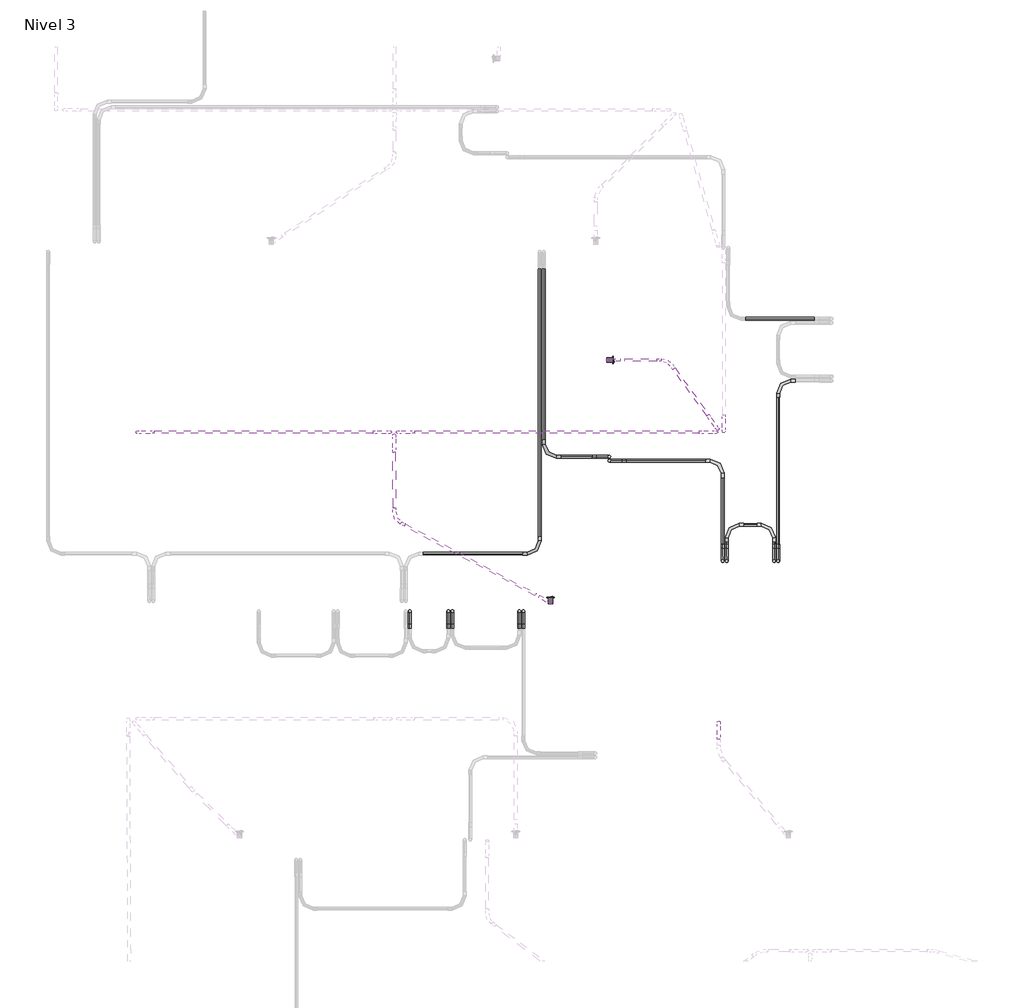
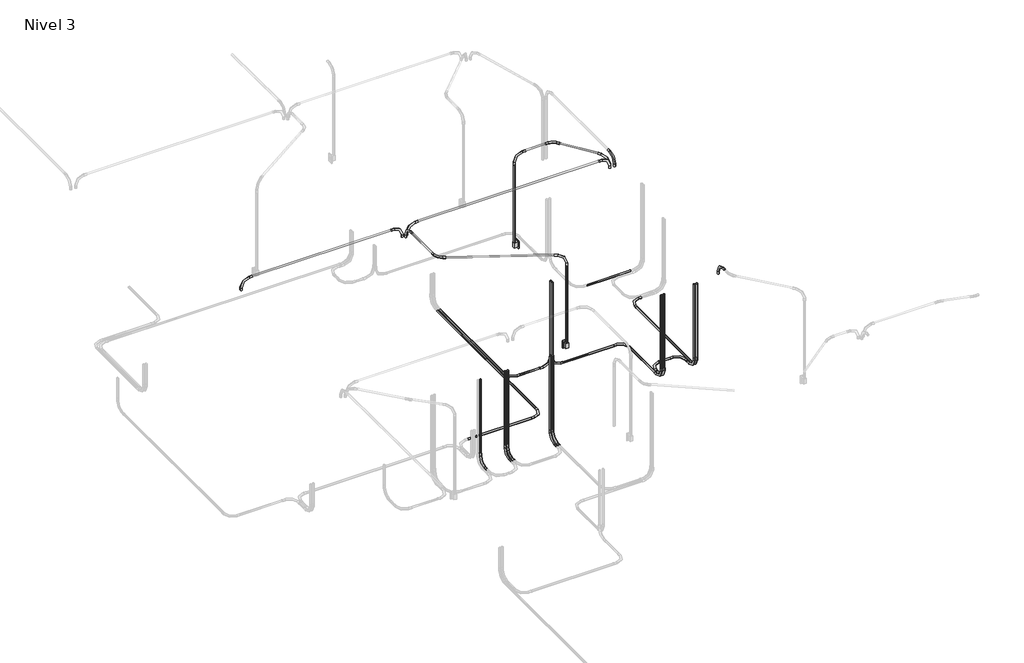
# One storey, part 6 of 9: 30 cable carrier segments, 29 cable carrier fittings, 2 switching devices.
"""IFC4 building model written with IfcOpenShell, lengths in millimetres."""

from ifc_helpers import new_model, si_unit, point, frame, frame_2d, origin, place, context, project, spatial, circle_curve, trimmed, segment, composite_curve, outline, extrude, transform, mapped, element, save
from components import m_codo_de_tubo_extremo_liso_pvc_9da73e12, m_codo_de_tubo_extremo_liso_pvc_102f0f41, m_codo_de_tubo_extremo_liso_pvc_7e29693c, m_codo_de_tubo_extremo_liso_pvc_4da0fa4a, switching_device_22fed34b

model = new_model("IFC4")

# Units and contexts
model_context = context("Model", 3, world=origin())
ifc_project = project(units=[si_unit("LENGTHUNIT", "METRE", prefix="MILLI")], contexts=[model_context])

# Site, building, storey
site = spatial("IfcSite", under=ifc_project)
building = spatial("IfcBuilding", under=site)
storey = spatial("IfcBuildingStorey", under=building, Name="Nivel 3", Elevation=5450.0)

# Cable carrier fittings
placement = place(None, origin())
m_codo_de_tubo_extremo_liso_pvc_shape = m_codo_de_tubo_extremo_liso_pvc_9da73e12(model_context)
element("IfcCableCarrierFitting", 1, ObjectType="M_Codo de tubo - Extremo liso - PVC : CODO POTENCIA", at=placement, inside=storey, context=model_context, shape_type="MappedRepresentation", body=[
    mapped(m_codo_de_tubo_extremo_liso_pvc_shape, transform((5861.9683714, 11082.7648472, 5380.0), x_axis=(-1.0, 0.0, 0.0), y_axis=(0.0, -1.0, 0.0), z_axis=(0.0, 0.0, 1.0))),
])
element("IfcCableCarrierFitting", 2, ObjectType="M_Codo de tubo - Extremo liso - PVC : CODO POTENCIA", at=placement, inside=storey, context=model_context, shape_type="MappedRepresentation", body=[
    mapped(m_codo_de_tubo_extremo_liso_pvc_shape, transform((5861.9683714, 9455.3628882, 5380.0), x_axis=(0.0, 0.0, -1.0), y_axis=(0.0, 1.0, 0.0), z_axis=(1.0, 0.0, 0.0))),
])
element("IfcCableCarrierFitting", 3, ObjectType="M_Codo de tubo - Extremo liso - PVC : CODO POTENCIA", at=placement, inside=storey, context=model_context, shape_type="MappedRepresentation", body=[
    mapped(m_codo_de_tubo_extremo_liso_pvc_shape, transform((5825.9047317, 9455.3628882, 5380.0), x_axis=(0.0, 0.0, -1.0), y_axis=(0.0, 1.0, 0.0), z_axis=(1.0, 0.0, 0.0))),
])
element("IfcCableCarrierFitting", 4, ObjectType="M_Codo de tubo - Extremo liso - PVC : CODO POTENCIA", at=placement, inside=storey, context=model_context, shape_type="MappedRepresentation", body=[
    mapped(m_codo_de_tubo_extremo_liso_pvc_shape, transform((5398.6351606, 9455.3628882, 5380.0), x_axis=(0.0, 0.0, -1.0), y_axis=(0.0, 1.0, 0.0), z_axis=(1.0, 0.0, 0.0))),
])
element("IfcCableCarrierFitting", 5, ObjectType="M_Codo de tubo - Extremo liso - PVC : CODO POTENCIA", at=placement, inside=storey, context=model_context, shape_type="MappedRepresentation", body=[
    mapped(m_codo_de_tubo_extremo_liso_pvc_shape, transform((4340.363469, 10360.1309198, 5380.0), x_axis=(0.0, 0.0, -1.0), y_axis=(1.0, 0.0, 0.0), z_axis=(0.0, -1.0, 0.0))),
])
element("IfcCableCarrierFitting", 6, ObjectType="M_Codo de tubo - Extremo liso - PVC : CODO POTENCIA", at=placement, inside=storey, context=model_context, shape_type="MappedRepresentation", body=[
    mapped(m_codo_de_tubo_extremo_liso_pvc_shape, transform((5825.9047317, 9781.7743992, 5380.0), x_axis=(0.0, 1.0, 0.0), y_axis=(-1.0, 0.0, 0.0), z_axis=(0.0, 0.0, 1.0))),
])
element("IfcCableCarrierFitting", 7, ObjectType="M_Codo de tubo - Extremo liso - PVC : CODO POTENCIA", at=placement, inside=storey, context=model_context, shape_type="MappedRepresentation", body=[
    mapped(m_codo_de_tubo_extremo_liso_pvc_shape, transform((5398.6351606, 9781.7743992, 5380.0), x_axis=(-1.0, 0.0, 0.0), y_axis=(0.0, -1.0, 0.0), z_axis=(0.0, 0.0, 1.0))),
])
element("IfcCableCarrierFitting", 8, ObjectType="M_Codo de tubo - Extremo liso - PVC : CODO POTENCIA", at=placement, inside=storey, context=model_context, shape_type="MappedRepresentation", body=[
    mapped(m_codo_de_tubo_extremo_liso_pvc_shape, transform((5362.571521, 10360.1309198, 5380.0), x_axis=(0.0, 1.0, 0.0), y_axis=(-1.0, 0.0, 0.0), z_axis=(0.0, 0.0, 1.0))),
])
element("IfcCableCarrierFitting", 9, ObjectType="M_Codo de tubo - Extremo liso - PVC : CODO POTENCIA", at=placement, inside=storey, context=model_context, shape_type="MappedRepresentation", body=[
    mapped(m_codo_de_tubo_extremo_liso_pvc_shape, transform((5362.571521, 9455.3628882, 5380.0), x_axis=(0.0, 0.0, -1.0), y_axis=(0.0, 1.0, 0.0), z_axis=(1.0, 0.0, 0.0))),
])
element("IfcCableCarrierFitting", 10, ObjectType="M_Codo de tubo - Extremo liso - PVC : CODO POTENCIA", at=placement, inside=storey, context=model_context, shape_type="MappedRepresentation", body=[
    mapped(m_codo_de_tubo_extremo_liso_pvc_shape, transform((3750.0633148, 10396.1945594, 5380.0), x_axis=(0.0, -1.0, 0.0), y_axis=(1.0, 0.0, 0.0), z_axis=(0.0, 0.0, 1.0))),
])
element("IfcCableCarrierFitting", 11, ObjectType="M_Codo de tubo - Extremo liso - PVC : CODO POTENCIA", at=placement, inside=storey, context=model_context, shape_type="MappedRepresentation", body=[
    mapped(m_codo_de_tubo_extremo_liso_pvc_shape, transform((4340.363469, 10396.1945594, 5380.0), x_axis=(0.0, 0.0, -1.0), y_axis=(-1.0, 0.0, 0.0), z_axis=(0.0, 1.0, 0.0))),
])
element("IfcCableCarrierFitting", 12, ObjectType="M_Codo de tubo - Extremo liso - PVC : CODO POTENCIA", at=placement, inside=storey, context=model_context, shape_type="MappedRepresentation", body=[
    mapped(m_codo_de_tubo_extremo_liso_pvc_shape, transform((3713.9996751, 9523.463856, 5380.0), x_axis=(1.0, 0.0, 0.0), y_axis=(0.0, 1.0, 0.0), z_axis=(0.0, 0.0, 1.0))),
])
element("IfcCableCarrierFitting", 13, ObjectType="M_Codo de tubo - Extremo liso - PVC : CODO POTENCIA", at=placement, inside=storey, context=model_context, shape_type="MappedRepresentation", body=[
    mapped(m_codo_de_tubo_extremo_liso_pvc_shape, transform((2543.7285061, 9004.6371118, 5380.0), x_axis=(0.0, 0.0, -1.0), y_axis=(0.0, -1.0, 0.0), z_axis=(-1.0, 0.0, 0.0))),
])
element("IfcCableCarrierFitting", 14, ObjectType="M_Codo de tubo - Extremo liso - PVC : CODO POTENCIA", at=placement, inside=storey, context=model_context, shape_type="MappedRepresentation", body=[
    mapped(m_codo_de_tubo_extremo_liso_pvc_shape, transform((2890.8449158, 9004.6371118, 5380.0), x_axis=(0.0, 0.0, -1.0), y_axis=(0.0, -1.0, 0.0), z_axis=(-1.0, 0.0, 0.0))),
])
element("IfcCableCarrierFitting", 15, ObjectType="M_Codo de tubo - Extremo liso - PVC : CODO POTENCIA", at=placement, inside=storey, context=model_context, shape_type="MappedRepresentation", body=[
    mapped(m_codo_de_tubo_extremo_liso_pvc_shape, transform((2926.9085554, 9004.6371118, 5380.0), x_axis=(0.0, 0.0, -1.0), y_axis=(0.0, -1.0, 0.0), z_axis=(-1.0, 0.0, 0.0))),
])
element("IfcCableCarrierFitting", 16, ObjectType="M_Codo de tubo - Extremo liso - PVC : CODO POTENCIA", at=placement, inside=storey, context=model_context, shape_type="MappedRepresentation", body=[
    mapped(m_codo_de_tubo_extremo_liso_pvc_shape, transform((3566.4756648, 9004.6371118, 5380.0), x_axis=(0.0, 0.0, -1.0), y_axis=(0.0, -1.0, 0.0), z_axis=(-1.0, 0.0, 0.0))),
])
element("IfcCableCarrierFitting", 17, ObjectType="M_Codo de tubo - Extremo liso - PVC : CODO POTENCIA", at=placement, inside=storey, context=model_context, shape_type="MappedRepresentation", body=[
    mapped(m_codo_de_tubo_extremo_liso_pvc_shape, transform((3530.4120251, 9004.6371118, 5380.0), x_axis=(0.0, 0.0, -1.0), y_axis=(0.0, -1.0, 0.0), z_axis=(-1.0, 0.0, 0.0))),
])
element("IfcCableCarrierFitting", 18, ObjectType="M_Codo de tubo - Extremo liso - PVC : CODO ILUMINACION", at=placement, inside=storey, context=model_context, shape_type="MappedRepresentation", body=[
    mapped(m_codo_de_tubo_extremo_liso_pvc_shape, transform((2433.5664838, 10618.2110616, 8000.0), x_axis=(-1.0, 0.0, 0.0), y_axis=(0.0, 0.0, -1.0), z_axis=(0.0, -1.0, 0.0))),
])
element("IfcCableCarrierFitting", 19, ObjectType="M_Codo de tubo - Extremo liso - PVC : CODO ILUMINACION", at=placement, inside=storey, context=model_context, shape_type="MappedRepresentation", body=[
    mapped(m_codo_de_tubo_extremo_liso_pvc_shape, transform((88.3958853, 10618.2110616, 8000.0), x_axis=(-1.0, 0.0, 0.0), y_axis=(0.0, 0.0, -1.0), z_axis=(0.0, -1.0, 0.0))),
])
element("IfcCableCarrierFitting", 20, ObjectType="M_Codo de tubo - Extremo liso - PVC : CODO ILUMINACION", at=placement, inside=storey, context=model_context, shape_type="MappedRepresentation", body=[
    mapped(m_codo_de_tubo_extremo_liso_pvc_shape, transform((5372.6243482, 10623.5653349, 8000.0), x_axis=(0.0, -1.0, 0.0), y_axis=(0.0, 0.0, -1.0), z_axis=(1.0, 0.0, 0.0))),
])
element("IfcCableCarrierFitting", 21, ObjectType="M_Codo de tubo - Extremo liso - PVC : CODO ILUMINACION", at=placement, inside=storey, context=model_context, shape_type="MappedRepresentation", body=[
    mapped(m_codo_de_tubo_extremo_liso_pvc_shape, transform((4326.8617051, 11267.6086695, 8000.0), x_axis=(0.0, 0.0, 1.0), y_axis=(1.0, 0.0, 0.0), z_axis=(0.0, 1.0, 0.0))),
])
element("IfcCableCarrierFitting", 22, ObjectType="M_Codo de tubo - Extremo liso - PVC : CODO ILUMINACION", at=placement, inside=storey, context=model_context, shape_type="MappedRepresentation", body=[
    mapped(m_codo_de_tubo_extremo_liso_pvc_shape, transform((2401.0317774, 10589.9698383, 8000.0), x_axis=(-0.003640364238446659, 0.9999933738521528, 0.0), y_axis=(0.0, 0.0, -1.0), z_axis=(-0.9999933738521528, -0.003640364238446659, 0.0))),
])
element("IfcCableCarrierFitting", 23, ObjectType="M_Codo de tubo - Extremo liso - PVC : CODO ILUMINACION", at=placement, inside=storey, context=model_context, shape_type="MappedRepresentation", body=[
    mapped(m_codo_de_tubo_extremo_liso_pvc_shape, transform((3809.679356, 9081.8611243, 8000.0), x_axis=(0.0, 0.0, 1.0), y_axis=(-0.882947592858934, 0.46947156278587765, 0.0), z_axis=(-0.46947156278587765, -0.882947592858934, 0.0))),
])
element("IfcCableCarrierFitting", 24, ObjectType="M_Codo de tubo - Extremo liso - PVC : CODO ILUMINACION", at=placement, inside=storey, context=model_context, shape_type="MappedRepresentation", body=[
    mapped(m_codo_de_tubo_extremo_liso_pvc_shape, transform((5326.8335186, 8002.6414157, 8000.0), x_axis=(0.0, 1.0, 0.0), y_axis=(0.0, 0.0, -1.0), z_axis=(-1.0, 0.0, 0.0))),
])
m_codo_de_tubo_extremo_liso_pvc_2_shape = m_codo_de_tubo_extremo_liso_pvc_102f0f41(model_context)
element("IfcCableCarrierFitting", 25, ObjectType="M_Codo de tubo - Extremo liso - PVC : CODO ILUMINACION", at=placement, inside=storey, context=model_context, shape_type="MappedRepresentation", body=[
    mapped(m_codo_de_tubo_extremo_liso_pvc_2_shape, transform((5305.5362229, 10618.2110616, 8000.0), x_axis=(1.0, 0.0, 0.0), y_axis=(0.0, 0.0, 1.0), z_axis=(0.0, -1.0, 0.0))),
])
element("IfcCableCarrierFitting", 26, ObjectType="M_Codo de tubo - Extremo liso - PVC : CODO ILUMINACION", at=placement, inside=storey, context=model_context, shape_type="MappedRepresentation", body=[
    mapped(m_codo_de_tubo_extremo_liso_pvc_2_shape, transform((2365.5362229, 10618.2110616, 8000.0), x_axis=(1.0, 0.0, 0.0), y_axis=(0.0, 0.0, 1.0), z_axis=(0.0, -1.0, 0.0))),
])
element("IfcCableCarrierFitting", 27, ObjectType="M_Codo de tubo - Extremo liso - PVC : CODO ILUMINACION", at=placement, inside=storey, context=model_context, shape_type="MappedRepresentation", body=[
    mapped(m_codo_de_tubo_extremo_liso_pvc_2_shape, transform((5317.7730141, 10646.6392543, 8000.0), x_axis=(0.587785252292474, -0.8090169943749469, 0.0), y_axis=(0.0, 0.0, 1.0000000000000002), z_axis=(-0.8090169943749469, -0.587785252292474, 0.0))),
])
m_codo_de_tubo_extremo_liso_pvc_3_shape = m_codo_de_tubo_extremo_liso_pvc_7e29693c(model_context)
element("IfcCableCarrierFitting", 28, ObjectType="M_Codo de tubo - Extremo liso - PVC : CODO ILUMINACION", at=placement, inside=storey, context=model_context, shape_type="MappedRepresentation", body=[
    mapped(m_codo_de_tubo_extremo_liso_pvc_3_shape, transform((4866.6123254, 11267.6086695, 8000.0), x_axis=(-0.5877852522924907, 0.8090169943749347, 0.0), y_axis=(-0.8090169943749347, -0.5877852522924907, 0.0), z_axis=(0.0, 0.0, 1.0))),
])
m_codo_de_tubo_extremo_liso_pvc_4_shape = m_codo_de_tubo_extremo_liso_pvc_4da0fa4a(model_context)
element("IfcCableCarrierFitting", 29, ObjectType="M_Codo de tubo - Extremo liso - PVC : CODO ILUMINACION", at=placement, inside=storey, context=model_context, shape_type="MappedRepresentation", body=[
    mapped(m_codo_de_tubo_extremo_liso_pvc_4_shape, transform((2403.8006194, 9829.3801084, 8000.0), x_axis=(0.0036403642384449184, -0.9999933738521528, 0.0), y_axis=(0.9999933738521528, 0.0036403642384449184, 0.0), z_axis=(0.0, 0.0, 1.0))),
])

# Cable carrier segments
element("IfcCableCarrierSegment", 30, ObjectType="PVC-SEL, POTENCIA", at=placement, inside=storey, context=model_context, shape_type="SweptSolid", body=[
    extrude(outline(composite_curve([segment(trimmed(circle_curve(frame_2d((11639.3432469, 5380.0)), 11.71), [point((11651.0532469, 5380.0))], [point((11639.3432469, 5368.29))], False, "CARTESIAN"), True, "CONTINUOUS"), segment(trimmed(circle_curve(frame_2d((11639.3432469, 5380.0)), 11.71), [point((11639.3432469, 5368.29))], [point((11627.6332469, 5380.0))], False, "CARTESIAN"), True, "CONTINUOUS"), segment(trimmed(circle_curve(frame_2d((11639.3432469, 5380.0)), 11.71), [point((11627.6332469, 5380.0))], [point((11639.3432469, 5391.71))], False, "CARTESIAN"), True, "CONTINUOUS"), segment(trimmed(circle_curve(frame_2d((11639.3432469, 5380.0)), 11.71), [point((11639.3432469, 5391.71))], [point((11651.0532469, 5380.0))], False, "CARTESIAN"), True, "CONTINUOUS")], self_intersect=False)), frame((5563.847338, 0.0, 0.0), z_axis=(1.0, 0.0, 0.0), x_axis=(0.0, 1.0, 0.0)), (0.0, 0.0, 1.0), 628.3897738),
])
element("IfcCableCarrierSegment", 31, ObjectType="PVC-SEL, POTENCIA", at=placement, inside=storey, context=model_context, shape_type="SweptSolid", body=[
    extrude(outline(composite_curve([segment(trimmed(circle_curve(frame_2d((5380.0, 5861.9683714)), 11.71), [point((5380.0, 5850.2583714))], [point((5368.29, 5861.9683714))], False, "CARTESIAN"), True, "CONTINUOUS"), segment(trimmed(circle_curve(frame_2d((5380.0, 5861.9683714)), 11.71), [point((5368.29, 5861.9683714))], [point((5380.0, 5873.6783714))], False, "CARTESIAN"), True, "CONTINUOUS"), segment(trimmed(circle_curve(frame_2d((5380.0, 5861.9683714)), 11.71), [point((5380.0, 5873.6783714))], [point((5391.71, 5861.9683714))], False, "CARTESIAN"), True, "CONTINUOUS"), segment(trimmed(circle_curve(frame_2d((5380.0, 5861.9683714)), 11.71), [point((5391.71, 5861.9683714))], [point((5380.0, 5850.2583714))], False, "CARTESIAN"), True, "CONTINUOUS")], self_intersect=False)), frame((0.0, 9607.7628882, 0.0), z_axis=(0.0, 1.0, 0.0), x_axis=(0.0, 0.0, 1.0)), (0.0, 0.0, 1.0), 1322.6019589),
])
element("IfcCableCarrierSegment", 32, ObjectType="PVC-SEL, POTENCIA", at=placement, inside=storey, context=model_context, shape_type="SweptSolid", body=[
    extrude(outline(composite_curve([segment(trimmed(circle_curve(frame_2d((5861.9683714, 9455.3628882)), 11.71), [point((5873.6783714, 9455.3628882))], [point((5861.9683714, 9443.6528882))], False, "CARTESIAN"), True, "CONTINUOUS"), segment(trimmed(circle_curve(frame_2d((5861.9683714, 9455.3628882)), 11.71), [point((5861.9683714, 9443.6528882))], [point((5850.2583714, 9455.3628882))], False, "CARTESIAN"), True, "CONTINUOUS"), segment(trimmed(circle_curve(frame_2d((5861.9683714, 9455.3628882)), 11.71), [point((5850.2583714, 9455.3628882))], [point((5861.9683714, 9467.0728882))], False, "CARTESIAN"), True, "CONTINUOUS"), segment(trimmed(circle_curve(frame_2d((5861.9683714, 9455.3628882)), 11.71), [point((5861.9683714, 9467.0728882))], [point((5873.6783714, 9455.3628882))], False, "CARTESIAN"), True, "CONTINUOUS")], self_intersect=False)), frame((0.0, 0.0, 5532.4), z_axis=(0.0, 0.0, 1.0), x_axis=(1.0, 0.0, 0.0)), (0.0, 0.0, 1.0), 1097.3020537),
])
element("IfcCableCarrierSegment", 33, ObjectType="PVC-SEL, POTENCIA", at=placement, inside=storey, context=model_context, shape_type="SweptSolid", body=[
    extrude(outline(composite_curve([segment(trimmed(circle_curve(frame_2d((5380.0, 5825.9047317)), 11.71), [point((5380.0, 5837.6147317))], [point((5391.71, 5825.9047317))], False, "CARTESIAN"), True, "CONTINUOUS"), segment(trimmed(circle_curve(frame_2d((5380.0, 5825.9047317)), 11.71), [point((5391.71, 5825.9047317))], [point((5380.0, 5814.1947317))], False, "CARTESIAN"), True, "CONTINUOUS"), segment(trimmed(circle_curve(frame_2d((5380.0, 5825.9047317)), 11.71), [point((5380.0, 5814.1947317))], [point((5368.29, 5825.9047317))], False, "CARTESIAN"), True, "CONTINUOUS"), segment(trimmed(circle_curve(frame_2d((5380.0, 5825.9047317)), 11.71), [point((5368.29, 5825.9047317))], [point((5380.0, 5837.6147317))], False, "CARTESIAN"), True, "CONTINUOUS")], self_intersect=False)), frame((0.0, 9607.7628882, 0.0), z_axis=(0.0, 1.0, 0.0), x_axis=(0.0, 0.0, 1.0)), (0.0, 0.0, 1.0), 21.611511),
])
element("IfcCableCarrierSegment", 34, ObjectType="PVC-SEL, POTENCIA", at=placement, inside=storey, context=model_context, shape_type="SweptSolid", body=[
    extrude(outline(composite_curve([segment(trimmed(circle_curve(frame_2d((5825.9047317, 9455.3628882)), 11.71), [point((5837.6147317, 9455.3628882))], [point((5825.9047317, 9443.6528882))], False, "CARTESIAN"), True, "CONTINUOUS"), segment(trimmed(circle_curve(frame_2d((5825.9047317, 9455.3628882)), 11.71), [point((5825.9047317, 9443.6528882))], [point((5814.1947317, 9455.3628882))], False, "CARTESIAN"), True, "CONTINUOUS"), segment(trimmed(circle_curve(frame_2d((5825.9047317, 9455.3628882)), 11.71), [point((5814.1947317, 9455.3628882))], [point((5825.9047317, 9467.0728882))], False, "CARTESIAN"), True, "CONTINUOUS"), segment(trimmed(circle_curve(frame_2d((5825.9047317, 9455.3628882)), 11.71), [point((5825.9047317, 9467.0728882))], [point((5837.6147317, 9455.3628882))], False, "CARTESIAN"), True, "CONTINUOUS")], self_intersect=False)), frame((0.0, 0.0, 5532.4), z_axis=(0.0, 0.0, 1.0), x_axis=(1.0, 0.0, 0.0)), (0.0, 0.0, 1.0), 1097.3020537),
])
element("IfcCableCarrierSegment", 35, ObjectType="PVC-SEL, POTENCIA", at=placement, inside=storey, context=model_context, shape_type="SweptSolid", body=[
    extrude(outline(composite_curve([segment(trimmed(circle_curve(frame_2d((5380.0, 5398.6351606)), 11.71), [point((5380.0, 5410.3451606))], [point((5391.71, 5398.6351606))], False, "CARTESIAN"), True, "CONTINUOUS"), segment(trimmed(circle_curve(frame_2d((5380.0, 5398.6351606)), 11.71), [point((5391.71, 5398.6351606))], [point((5380.0, 5386.9251606))], False, "CARTESIAN"), True, "CONTINUOUS"), segment(trimmed(circle_curve(frame_2d((5380.0, 5398.6351606)), 11.71), [point((5380.0, 5386.9251606))], [point((5368.29, 5398.6351606))], False, "CARTESIAN"), True, "CONTINUOUS"), segment(trimmed(circle_curve(frame_2d((5380.0, 5398.6351606)), 11.71), [point((5368.29, 5398.6351606))], [point((5380.0, 5410.3451606))], False, "CARTESIAN"), True, "CONTINUOUS")], self_intersect=False)), frame((0.0, 9607.7628882, 0.0), z_axis=(0.0, 1.0, 0.0), x_axis=(0.0, 0.0, 1.0)), (0.0, 0.0, 1.0), 21.611511),
])
element("IfcCableCarrierSegment", 36, ObjectType="PVC-SEL, POTENCIA", at=placement, inside=storey, context=model_context, shape_type="SweptSolid", body=[
    extrude(outline(composite_curve([segment(trimmed(circle_curve(frame_2d((5398.6351606, 9455.3628882)), 11.71), [point((5410.3451606, 9455.3628882))], [point((5398.6351606, 9443.6528882))], False, "CARTESIAN"), True, "CONTINUOUS"), segment(trimmed(circle_curve(frame_2d((5398.6351606, 9455.3628882)), 11.71), [point((5398.6351606, 9443.6528882))], [point((5386.9251606, 9455.3628882))], False, "CARTESIAN"), True, "CONTINUOUS"), segment(trimmed(circle_curve(frame_2d((5398.6351606, 9455.3628882)), 11.71), [point((5386.9251606, 9455.3628882))], [point((5398.6351606, 9467.0728882))], False, "CARTESIAN"), True, "CONTINUOUS"), segment(trimmed(circle_curve(frame_2d((5398.6351606, 9455.3628882)), 11.71), [point((5398.6351606, 9467.0728882))], [point((5410.3451606, 9455.3628882))], False, "CARTESIAN"), True, "CONTINUOUS")], self_intersect=False)), frame((0.0, 0.0, 5532.4), z_axis=(0.0, 0.0, 1.0), x_axis=(1.0, 0.0, 0.0)), (0.0, 0.0, 1.0), 1097.3020537),
])
element("IfcCableCarrierSegment", 37, ObjectType="PVC-SEL, POTENCIA", at=placement, inside=storey, context=model_context, shape_type="SweptSolid", body=[
    extrude(outline(composite_curve([segment(trimmed(circle_curve(frame_2d((5380.0, 5362.571521)), 11.71), [point((5380.0, 5350.861521))], [point((5368.29, 5362.571521))], False, "CARTESIAN"), True, "CONTINUOUS"), segment(trimmed(circle_curve(frame_2d((5380.0, 5362.571521)), 11.71), [point((5368.29, 5362.571521))], [point((5380.0, 5374.281521))], False, "CARTESIAN"), True, "CONTINUOUS"), segment(trimmed(circle_curve(frame_2d((5380.0, 5362.571521)), 11.71), [point((5380.0, 5374.281521))], [point((5391.71, 5362.571521))], False, "CARTESIAN"), True, "CONTINUOUS"), segment(trimmed(circle_curve(frame_2d((5380.0, 5362.571521)), 11.71), [point((5391.71, 5362.571521))], [point((5380.0, 5350.861521))], False, "CARTESIAN"), True, "CONTINUOUS")], self_intersect=False)), frame((0.0, 9607.7628882, 0.0), z_axis=(0.0, 1.0, 0.0), x_axis=(0.0, 0.0, 1.0)), (0.0, 0.0, 1.0), 599.9680316),
])
element("IfcCableCarrierSegment", 38, ObjectType="PVC-SEL, POTENCIA", at=placement, inside=storey, context=model_context, shape_type="SweptSolid", body=[
    extrude(outline(composite_curve([segment(trimmed(circle_curve(frame_2d((5362.571521, 9455.3628882)), 11.71), [point((5374.281521, 9455.3628882))], [point((5362.571521, 9443.6528882))], False, "CARTESIAN"), True, "CONTINUOUS"), segment(trimmed(circle_curve(frame_2d((5362.571521, 9455.3628882)), 11.71), [point((5362.571521, 9443.6528882))], [point((5350.861521, 9455.3628882))], False, "CARTESIAN"), True, "CONTINUOUS"), segment(trimmed(circle_curve(frame_2d((5362.571521, 9455.3628882)), 11.71), [point((5350.861521, 9455.3628882))], [point((5362.571521, 9467.0728882))], False, "CARTESIAN"), True, "CONTINUOUS"), segment(trimmed(circle_curve(frame_2d((5362.571521, 9455.3628882)), 11.71), [point((5362.571521, 9467.0728882))], [point((5374.281521, 9455.3628882))], False, "CARTESIAN"), True, "CONTINUOUS")], self_intersect=False)), frame((0.0, 0.0, 5532.4), z_axis=(0.0, 0.0, 1.0), x_axis=(1.0, 0.0, 0.0)), (0.0, 0.0, 1.0), 1097.3020537),
])
element("IfcCableCarrierSegment", 39, ObjectType="PVC-SEL, POTENCIA", at=placement, inside=storey, context=model_context, shape_type="SweptSolid", body=[
    extrude(outline(composite_curve([segment(trimmed(circle_curve(frame_2d((10360.1309198, 5380.0)), 11.71), [point((10348.4209198, 5380.0))], [point((10360.1309198, 5391.71))], False, "CARTESIAN"), True, "CONTINUOUS"), segment(trimmed(circle_curve(frame_2d((10360.1309198, 5380.0)), 11.71), [point((10360.1309198, 5391.71))], [point((10371.8409198, 5380.0))], False, "CARTESIAN"), True, "CONTINUOUS"), segment(trimmed(circle_curve(frame_2d((10360.1309198, 5380.0)), 11.71), [point((10371.8409198, 5380.0))], [point((10360.1309198, 5368.29))], False, "CARTESIAN"), True, "CONTINUOUS"), segment(trimmed(circle_curve(frame_2d((10360.1309198, 5380.0)), 11.71), [point((10360.1309198, 5368.29))], [point((10348.4209198, 5380.0))], False, "CARTESIAN"), True, "CONTINUOUS")], self_intersect=False)), frame((4492.763469, 0.0, 0.0), z_axis=(1.0, 0.0, 0.0), x_axis=(0.0, 1.0, 0.0)), (0.0, 0.0, 1.0), 717.408052),
])
element("IfcCableCarrierSegment", 40, ObjectType="PVC-SEL, POTENCIA", at=placement, inside=storey, context=model_context, shape_type="SweptSolid", body=[
    extrude(outline(composite_curve([segment(trimmed(circle_curve(frame_2d((4340.363469, 10360.1309198)), 11.71), [point((4352.073469, 10360.1309198))], [point((4340.363469, 10348.4209198))], False, "CARTESIAN"), True, "CONTINUOUS"), segment(trimmed(circle_curve(frame_2d((4340.363469, 10360.1309198)), 11.71), [point((4340.363469, 10348.4209198))], [point((4328.653469, 10360.1309198))], False, "CARTESIAN"), True, "CONTINUOUS"), segment(trimmed(circle_curve(frame_2d((4340.363469, 10360.1309198)), 11.71), [point((4328.653469, 10360.1309198))], [point((4340.363469, 10371.8409198))], False, "CARTESIAN"), True, "CONTINUOUS"), segment(trimmed(circle_curve(frame_2d((4340.363469, 10360.1309198)), 11.71), [point((4340.363469, 10371.8409198))], [point((4352.073469, 10360.1309198))], False, "CARTESIAN"), True, "CONTINUOUS")], self_intersect=False)), frame((0.0, 0.0, 5532.4), z_axis=(0.0, 0.0, 1.0), x_axis=(1.0, 0.0, 0.0)), (0.0, 0.0, 1.0), 1097.3020537),
])
element("IfcCableCarrierSegment", 41, ObjectType="PVC-SEL, POTENCIA", at=placement, inside=storey, context=model_context, shape_type="SweptSolid", body=[
    extrude(outline(composite_curve([segment(trimmed(circle_curve(frame_2d((10396.1945594, 5380.0)), 11.71), [point((10384.4845594, 5380.0))], [point((10396.1945594, 5391.71))], False, "CARTESIAN"), True, "CONTINUOUS"), segment(trimmed(circle_curve(frame_2d((10396.1945594, 5380.0)), 11.71), [point((10396.1945594, 5391.71))], [point((10407.9045594, 5380.0))], False, "CARTESIAN"), True, "CONTINUOUS"), segment(trimmed(circle_curve(frame_2d((10396.1945594, 5380.0)), 11.71), [point((10407.9045594, 5380.0))], [point((10396.1945594, 5368.29))], False, "CARTESIAN"), True, "CONTINUOUS"), segment(trimmed(circle_curve(frame_2d((10396.1945594, 5380.0)), 11.71), [point((10396.1945594, 5368.29))], [point((10384.4845594, 5380.0))], False, "CARTESIAN"), True, "CONTINUOUS")], self_intersect=False)), frame((3902.4633148, 0.0, 0.0), z_axis=(1.0, 0.0, 0.0), x_axis=(0.0, 1.0, 0.0)), (0.0, 0.0, 1.0), 285.5001542),
])
element("IfcCableCarrierSegment", 42, ObjectType="PVC-SEL, POTENCIA", at=placement, inside=storey, context=model_context, shape_type="SweptSolid", body=[
    extrude(outline(composite_curve([segment(trimmed(circle_curve(frame_2d((4340.363469, 10396.1945594)), 11.71), [point((4352.073469, 10396.1945594))], [point((4340.363469, 10384.4845594))], False, "CARTESIAN"), True, "CONTINUOUS"), segment(trimmed(circle_curve(frame_2d((4340.363469, 10396.1945594)), 11.71), [point((4340.363469, 10384.4845594))], [point((4328.653469, 10396.1945594))], False, "CARTESIAN"), True, "CONTINUOUS"), segment(trimmed(circle_curve(frame_2d((4340.363469, 10396.1945594)), 11.71), [point((4328.653469, 10396.1945594))], [point((4340.363469, 10407.9045594))], False, "CARTESIAN"), True, "CONTINUOUS"), segment(trimmed(circle_curve(frame_2d((4340.363469, 10396.1945594)), 11.71), [point((4340.363469, 10407.9045594))], [point((4352.073469, 10396.1945594))], False, "CARTESIAN"), True, "CONTINUOUS")], self_intersect=False)), frame((0.0, 0.0, 5532.4), z_axis=(0.0, 0.0, 1.0), x_axis=(1.0, 0.0, 0.0)), (0.0, 0.0, 1.0), 1097.3020537),
])
element("IfcCableCarrierSegment", 43, ObjectType="PVC-SEL, POTENCIA", at=placement, inside=storey, context=model_context, shape_type="SweptSolid", body=[
    extrude(outline(composite_curve([segment(trimmed(circle_curve(frame_2d((9781.7743992, 5380.0)), 11.71), [point((9793.4843992, 5380.0))], [point((9781.7743992, 5368.29))], False, "CARTESIAN"), True, "CONTINUOUS"), segment(trimmed(circle_curve(frame_2d((9781.7743992, 5380.0)), 11.71), [point((9781.7743992, 5368.29))], [point((9770.0643992, 5380.0))], False, "CARTESIAN"), True, "CONTINUOUS"), segment(trimmed(circle_curve(frame_2d((9781.7743992, 5380.0)), 11.71), [point((9770.0643992, 5380.0))], [point((9781.7743992, 5391.71))], False, "CARTESIAN"), True, "CONTINUOUS"), segment(trimmed(circle_curve(frame_2d((9781.7743992, 5380.0)), 11.71), [point((9781.7743992, 5391.71))], [point((9793.4843992, 5380.0))], False, "CARTESIAN"), True, "CONTINUOUS")], self_intersect=False)), frame((5551.0351606, 0.0, 0.0), z_axis=(1.0, 0.0, 0.0), x_axis=(0.0, 1.0, 0.0)), (0.0, 0.0, 1.0), 122.4695711),
])
element("IfcCableCarrierSegment", 44, ObjectType="PVC-SEL, POTENCIA", at=placement, inside=storey, context=model_context, shape_type="SweptSolid", body=[
    extrude(outline(composite_curve([segment(trimmed(circle_curve(frame_2d((5380.0, 3750.0633148)), 11.71), [point((5380.0, 3738.3533148))], [point((5368.29, 3750.0633148))], False, "CARTESIAN"), True, "CONTINUOUS"), segment(trimmed(circle_curve(frame_2d((5380.0, 3750.0633148)), 11.71), [point((5368.29, 3750.0633148))], [point((5380.0, 3761.7733148))], False, "CARTESIAN"), True, "CONTINUOUS"), segment(trimmed(circle_curve(frame_2d((5380.0, 3750.0633148)), 11.71), [point((5380.0, 3761.7733148))], [point((5391.71, 3750.0633148))], False, "CARTESIAN"), True, "CONTINUOUS"), segment(trimmed(circle_curve(frame_2d((5380.0, 3750.0633148)), 11.71), [point((5391.71, 3750.0633148))], [point((5380.0, 3738.3533148))], False, "CARTESIAN"), True, "CONTINUOUS")], self_intersect=False)), frame((0.0, 10548.5945594, 0.0), z_axis=(0.0, 1.0, 0.0), x_axis=(0.0, 0.0, 1.0)), (0.0, 0.0, 1.0), 1543.6425523),
])
element("IfcCableCarrierSegment", 45, ObjectType="PVC-SEL, POTENCIA", at=placement, inside=storey, context=model_context, shape_type="SweptSolid", body=[
    extrude(outline(composite_curve([segment(trimmed(circle_curve(frame_2d((5380.0, 3713.9996751)), 11.71), [point((5380.0, 3702.2896751))], [point((5368.29, 3713.9996751))], False, "CARTESIAN"), True, "CONTINUOUS"), segment(trimmed(circle_curve(frame_2d((5380.0, 3713.9996751)), 11.71), [point((5368.29, 3713.9996751))], [point((5380.0, 3725.7096751))], False, "CARTESIAN"), True, "CONTINUOUS"), segment(trimmed(circle_curve(frame_2d((5380.0, 3713.9996751)), 11.71), [point((5380.0, 3725.7096751))], [point((5391.71, 3713.9996751))], False, "CARTESIAN"), True, "CONTINUOUS"), segment(trimmed(circle_curve(frame_2d((5380.0, 3713.9996751)), 11.71), [point((5391.71, 3713.9996751))], [point((5380.0, 3702.2896751))], False, "CARTESIAN"), True, "CONTINUOUS")], self_intersect=False)), frame((0.0, 9675.863856, 0.0), z_axis=(0.0, 1.0, 0.0), x_axis=(0.0, 0.0, 1.0)), (0.0, 0.0, 1.0), 2416.3732558),
])
element("IfcCableCarrierSegment", 46, ObjectType="PVC-SEL, POTENCIA", at=placement, inside=storey, context=model_context, shape_type="SweptSolid", body=[
    extrude(outline(composite_curve([segment(trimmed(circle_curve(frame_2d((9523.463856, 5380.0)), 11.71), [point((9535.173856, 5380.0))], [point((9523.463856, 5368.29))], False, "CARTESIAN"), True, "CONTINUOUS"), segment(trimmed(circle_curve(frame_2d((9523.463856, 5380.0)), 11.71), [point((9523.463856, 5368.29))], [point((9511.753856, 5380.0))], False, "CARTESIAN"), True, "CONTINUOUS"), segment(trimmed(circle_curve(frame_2d((9523.463856, 5380.0)), 11.71), [point((9511.753856, 5380.0))], [point((9523.463856, 5391.71))], False, "CARTESIAN"), True, "CONTINUOUS"), segment(trimmed(circle_curve(frame_2d((9523.463856, 5380.0)), 11.71), [point((9523.463856, 5391.71))], [point((9535.173856, 5380.0))], False, "CARTESIAN"), True, "CONTINUOUS")], self_intersect=False)), frame((2660.3923837, 0.0, 0.0), z_axis=(1.0, 0.0, 0.0), x_axis=(0.0, 1.0, 0.0)), (0.0, 0.0, 1.0), 901.2072914),
])
element("IfcCableCarrierSegment", 47, ObjectType="PVC-SEL, POTENCIA", at=placement, inside=storey, context=model_context, shape_type="SweptSolid", body=[
    extrude(outline(composite_curve([segment(trimmed(circle_curve(frame_2d((2543.7285061, 9004.6371118)), 11.71), [point((2555.4385061, 9004.6371118))], [point((2543.7285061, 8992.9271118))], False, "CARTESIAN"), True, "CONTINUOUS"), segment(trimmed(circle_curve(frame_2d((2543.7285061, 9004.6371118)), 11.71), [point((2543.7285061, 8992.9271118))], [point((2532.0185061, 9004.6371118))], False, "CARTESIAN"), True, "CONTINUOUS"), segment(trimmed(circle_curve(frame_2d((2543.7285061, 9004.6371118)), 11.71), [point((2532.0185061, 9004.6371118))], [point((2543.7285061, 9016.3471118))], False, "CARTESIAN"), True, "CONTINUOUS"), segment(trimmed(circle_curve(frame_2d((2543.7285061, 9004.6371118)), 11.71), [point((2543.7285061, 9016.3471118))], [point((2555.4385061, 9004.6371118))], False, "CARTESIAN"), True, "CONTINUOUS")], self_intersect=False)), frame((0.0, 0.0, 5532.4), z_axis=(0.0, 0.0, 1.0), x_axis=(1.0, 0.0, 0.0)), (0.0, 0.0, 1.0), 1097.3020537),
])
element("IfcCableCarrierSegment", 48, ObjectType="PVC-SEL, POTENCIA", at=placement, inside=storey, context=model_context, shape_type="SweptSolid", body=[
    extrude(outline(composite_curve([segment(trimmed(circle_curve(frame_2d((2890.8449158, 9004.6371118)), 11.71), [point((2902.5549158, 9004.6371118))], [point((2890.8449158, 8992.9271118))], False, "CARTESIAN"), True, "CONTINUOUS"), segment(trimmed(circle_curve(frame_2d((2890.8449158, 9004.6371118)), 11.71), [point((2890.8449158, 8992.9271118))], [point((2879.1349158, 9004.6371118))], False, "CARTESIAN"), True, "CONTINUOUS"), segment(trimmed(circle_curve(frame_2d((2890.8449158, 9004.6371118)), 11.71), [point((2879.1349158, 9004.6371118))], [point((2890.8449158, 9016.3471118))], False, "CARTESIAN"), True, "CONTINUOUS"), segment(trimmed(circle_curve(frame_2d((2890.8449158, 9004.6371118)), 11.71), [point((2890.8449158, 9016.3471118))], [point((2902.5549158, 9004.6371118))], False, "CARTESIAN"), True, "CONTINUOUS")], self_intersect=False)), frame((0.0, 0.0, 5532.4), z_axis=(0.0, 0.0, 1.0), x_axis=(1.0, 0.0, 0.0)), (0.0, 0.0, 1.0), 1097.3020537),
])
element("IfcCableCarrierSegment", 49, ObjectType="PVC-SEL, POTENCIA", at=placement, inside=storey, context=model_context, shape_type="SweptSolid", body=[
    extrude(outline(composite_curve([segment(trimmed(circle_curve(frame_2d((2926.9085554, 9004.6371118)), 11.71), [point((2938.6185554, 9004.6371118))], [point((2926.9085554, 8992.9271118))], False, "CARTESIAN"), True, "CONTINUOUS"), segment(trimmed(circle_curve(frame_2d((2926.9085554, 9004.6371118)), 11.71), [point((2926.9085554, 8992.9271118))], [point((2915.1985554, 9004.6371118))], False, "CARTESIAN"), True, "CONTINUOUS"), segment(trimmed(circle_curve(frame_2d((2926.9085554, 9004.6371118)), 11.71), [point((2915.1985554, 9004.6371118))], [point((2926.9085554, 9016.3471118))], False, "CARTESIAN"), True, "CONTINUOUS"), segment(trimmed(circle_curve(frame_2d((2926.9085554, 9004.6371118)), 11.71), [point((2926.9085554, 9016.3471118))], [point((2938.6185554, 9004.6371118))], False, "CARTESIAN"), True, "CONTINUOUS")], self_intersect=False)), frame((0.0, 0.0, 5532.4), z_axis=(0.0, 0.0, 1.0), x_axis=(1.0, 0.0, 0.0)), (0.0, 0.0, 1.0), 1097.3020537),
])
element("IfcCableCarrierSegment", 50, ObjectType="PVC-SEL, POTENCIA", at=placement, inside=storey, context=model_context, shape_type="SweptSolid", body=[
    extrude(outline(composite_curve([segment(trimmed(circle_curve(frame_2d((3530.4120251, 9004.6371118)), 11.71), [point((3542.1220251, 9004.6371118))], [point((3530.4120251, 8992.9271118))], False, "CARTESIAN"), True, "CONTINUOUS"), segment(trimmed(circle_curve(frame_2d((3530.4120251, 9004.6371118)), 11.71), [point((3530.4120251, 8992.9271118))], [point((3518.7020251, 9004.6371118))], False, "CARTESIAN"), True, "CONTINUOUS"), segment(trimmed(circle_curve(frame_2d((3530.4120251, 9004.6371118)), 11.71), [point((3518.7020251, 9004.6371118))], [point((3530.4120251, 9016.3471118))], False, "CARTESIAN"), True, "CONTINUOUS"), segment(trimmed(circle_curve(frame_2d((3530.4120251, 9004.6371118)), 11.71), [point((3530.4120251, 9016.3471118))], [point((3542.1220251, 9004.6371118))], False, "CARTESIAN"), True, "CONTINUOUS")], self_intersect=False)), frame((0.0, 0.0, 5532.4), z_axis=(0.0, 0.0, 1.0), x_axis=(1.0, 0.0, 0.0)), (0.0, 0.0, 1.0), 1097.3020537),
])
element("IfcCableCarrierSegment", 51, ObjectType="PVC-SEL, POTENCIA", at=placement, inside=storey, context=model_context, shape_type="SweptSolid", body=[
    extrude(outline(composite_curve([segment(trimmed(circle_curve(frame_2d((3566.4756648, 9004.6371118)), 11.71), [point((3578.1856648, 9004.6371118))], [point((3566.4756648, 8992.9271118))], False, "CARTESIAN"), True, "CONTINUOUS"), segment(trimmed(circle_curve(frame_2d((3566.4756648, 9004.6371118)), 11.71), [point((3566.4756648, 8992.9271118))], [point((3554.7656648, 9004.6371118))], False, "CARTESIAN"), True, "CONTINUOUS"), segment(trimmed(circle_curve(frame_2d((3566.4756648, 9004.6371118)), 11.71), [point((3554.7656648, 9004.6371118))], [point((3566.4756648, 9016.3471118))], False, "CARTESIAN"), True, "CONTINUOUS"), segment(trimmed(circle_curve(frame_2d((3566.4756648, 9004.6371118)), 11.71), [point((3566.4756648, 9016.3471118))], [point((3578.1856648, 9004.6371118))], False, "CARTESIAN"), True, "CONTINUOUS")], self_intersect=False)), frame((0.0, 0.0, 5532.4), z_axis=(0.0, 0.0, 1.0), x_axis=(1.0, 0.0, 0.0)), (0.0, 0.0, 1.0), 1097.3020537),
])
element("IfcCableCarrierSegment", 52, ObjectType="PVC-SEL ILUMINACION", at=placement, inside=storey, context=model_context, shape_type="SweptSolid", body=[
    extrude(outline(composite_curve([segment(trimmed(circle_curve(frame_2d((10618.2110616, 8000.0)), 11.71), [point((10629.9210616, 8000.0))], [point((10618.2110616, 7988.29))], False, "CARTESIAN"), True, "CONTINUOUS"), segment(trimmed(circle_curve(frame_2d((10618.2110616, 8000.0)), 11.71), [point((10618.2110616, 7988.29))], [point((10606.5010616, 8000.0))], False, "CARTESIAN"), True, "CONTINUOUS"), segment(trimmed(circle_curve(frame_2d((10618.2110616, 8000.0)), 11.71), [point((10606.5010616, 8000.0))], [point((10618.2110616, 8011.71))], False, "CARTESIAN"), True, "CONTINUOUS"), segment(trimmed(circle_curve(frame_2d((10618.2110616, 8000.0)), 11.71), [point((10618.2110616, 8011.71))], [point((10629.9210616, 8000.0))], False, "CARTESIAN"), True, "CONTINUOUS")], self_intersect=False)), frame((240.7958853, 0.0, 0.0), z_axis=(1.0, 0.0, 0.0), x_axis=(0.0, 1.0, 0.0)), (0.0, 0.0, 1.0), 1972.3403376),
])
element("IfcCableCarrierSegment", 53, ObjectType="PVC-SEL ILUMINACION", at=placement, inside=storey, context=model_context, shape_type="SweptSolid", body=[
    extrude(outline(composite_curve([segment(trimmed(circle_curve(frame_2d((10618.2110616, 8000.0)), 11.71), [point((10629.9210616, 8000.0))], [point((10618.2110616, 7988.29))], False, "CARTESIAN"), True, "CONTINUOUS"), segment(trimmed(circle_curve(frame_2d((10618.2110616, 8000.0)), 11.71), [point((10618.2110616, 7988.29))], [point((10606.5010616, 8000.0))], False, "CARTESIAN"), True, "CONTINUOUS"), segment(trimmed(circle_curve(frame_2d((10618.2110616, 8000.0)), 11.71), [point((10606.5010616, 8000.0))], [point((10618.2110616, 8011.71))], False, "CARTESIAN"), True, "CONTINUOUS"), segment(trimmed(circle_curve(frame_2d((10618.2110616, 8000.0)), 11.71), [point((10618.2110616, 8011.71))], [point((10629.9210616, 8000.0))], False, "CARTESIAN"), True, "CONTINUOUS")], self_intersect=False)), frame((2585.9664838, 0.0, 0.0), z_axis=(1.0, 0.0, 0.0), x_axis=(0.0, 1.0, 0.0)), (0.0, 0.0, 1.0), 2567.169739),
])
element("IfcCableCarrierSegment", 54, ObjectType="PVC-SEL ILUMINACION", at=placement, inside=storey, context=model_context, shape_type="SweptSolid", body=[
    extrude(outline(composite_curve([segment(trimmed(circle_curve(frame_2d((0.0, -11.71)), 11.71), [point((-11.7100001, -11.71))], [point((0.0, 0.0))], False, "CARTESIAN"), True, "CONTINUOUS"), segment(trimmed(circle_curve(frame_2d((0.0, -11.71)), 11.71), [point((0.0, 0.0))], [point((11.71, -11.71))], False, "CARTESIAN"), True, "CONTINUOUS"), segment(trimmed(circle_curve(frame_2d((0.0, -11.71)), 11.71), [point((11.71, -11.71))], [point((0.0, -23.42))], False, "CARTESIAN"), True, "CONTINUOUS"), segment(trimmed(circle_curve(frame_2d((0.0, -11.71)), 11.71), [point((0.0, -23.42))], [point((-11.7100001, -11.71))], False, "CARTESIAN"), True, "CONTINUOUS")], self_intersect=False)), frame((5228.1945417, 10769.9334443, 7988.29), z_axis=(-0.5877852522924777, 0.8090169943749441, 0.0), x_axis=(0.8090169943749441, 0.5877852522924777, 0.0)), (0.0, 0.0, 1.0), 518.8216502),
])
element("IfcCableCarrierSegment", 55, ObjectType="PVC-SEL ILUMINACION", at=placement, inside=storey, context=model_context, shape_type="SweptSolid", body=[
    extrude(outline(composite_curve([segment(trimmed(circle_curve(frame_2d((11267.6086695, 8000.0)), 11.71), [point((11255.8986695, 8000.0))], [point((11267.6086695, 8011.71))], False, "CARTESIAN"), True, "CONTINUOUS"), segment(trimmed(circle_curve(frame_2d((11267.6086695, 8000.0)), 11.71), [point((11267.6086695, 8011.71))], [point((11279.3186695, 8000.0))], False, "CARTESIAN"), True, "CONTINUOUS"), segment(trimmed(circle_curve(frame_2d((11267.6086695, 8000.0)), 11.71), [point((11279.3186695, 8000.0))], [point((11267.6086695, 7988.29))], False, "CARTESIAN"), True, "CONTINUOUS"), segment(trimmed(circle_curve(frame_2d((11267.6086695, 8000.0)), 11.71), [point((11267.6086695, 7988.29))], [point((11255.8986695, 8000.0))], False, "CARTESIAN"), True, "CONTINUOUS")], self_intersect=False)), frame((4479.2617051, 0.0, 0.0), z_axis=(1.0, 0.0, 0.0), x_axis=(0.0, 1.0, 0.0)), (0.0, 0.0, 1.0), 291.0118614),
])
element("IfcCableCarrierSegment", 56, ObjectType="PVC-SEL ILUMINACION", at=placement, inside=storey, context=model_context, shape_type="SweptSolid", body=[
    extrude(outline(composite_curve([segment(trimmed(circle_curve(frame_2d((4326.8617051, 11267.6086695)), 11.71), [point((4315.1517051, 11267.6086695))], [point((4326.8617051, 11279.3186695))], False, "CARTESIAN"), True, "CONTINUOUS"), segment(trimmed(circle_curve(frame_2d((4326.8617051, 11267.6086695)), 11.71), [point((4326.8617051, 11279.3186695))], [point((4338.5717051, 11267.6086695))], False, "CARTESIAN"), True, "CONTINUOUS"), segment(trimmed(circle_curve(frame_2d((4326.8617051, 11267.6086695)), 11.71), [point((4338.5717051, 11267.6086695))], [point((4326.8617051, 11255.8986695))], False, "CARTESIAN"), True, "CONTINUOUS"), segment(trimmed(circle_curve(frame_2d((4326.8617051, 11267.6086695)), 11.71), [point((4326.8617051, 11255.8986695))], [point((4315.1517051, 11267.6086695))], False, "CARTESIAN"), True, "CONTINUOUS")], self_intersect=False)), frame((0.0, 0.0, 6690.2227463), z_axis=(0.0, 0.0, 1.0), x_axis=(1.0, 0.0, 0.0)), (0.0, 0.0, 1.0), 1157.3772537),
])
element("IfcCableCarrierSegment", 57, ObjectType="PVC-SEL ILUMINACION", at=placement, inside=storey, context=model_context, shape_type="SweptSolid", body=[
    extrude(outline(composite_curve([segment(trimmed(circle_curve(frame_2d((0.0, -11.71)), 11.71), [point((-11.71, -11.71))], [point((0.0, 0.0))], False, "CARTESIAN"), True, "CONTINUOUS"), segment(trimmed(circle_curve(frame_2d((0.0, -11.71)), 11.71), [point((0.0, 0.0))], [point((11.71, -11.71))], False, "CARTESIAN"), True, "CONTINUOUS"), segment(trimmed(circle_curve(frame_2d((0.0, -11.71)), 11.71), [point((11.71, -11.71))], [point((0.0, -23.42))], False, "CARTESIAN"), True, "CONTINUOUS"), segment(trimmed(circle_curve(frame_2d((0.0, -11.71)), 11.71), [point((0.0, -23.42))], [point((-11.71, -11.71))], False, "CARTESIAN"), True, "CONTINUOUS")], self_intersect=False)), frame((3675.1181429, 9153.4085905, 7988.29), z_axis=(-0.8829475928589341, 0.4694715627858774, 0.0), x_axis=(0.4694715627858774, 0.8829475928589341, 0.0)), (0.0, 0.0, 1.0), 1333.3606335),
])
element("IfcCableCarrierSegment", 58, ObjectType="PVC-SEL ILUMINACION", at=placement, inside=storey, context=model_context, shape_type="SweptSolid", body=[
    extrude(outline(composite_curve([segment(trimmed(circle_curve(frame_2d((3809.679356, 9081.8611243)), 11.71), [point((3797.969356, 9081.8611243))], [point((3809.679356, 9093.5711243))], False, "CARTESIAN"), True, "CONTINUOUS"), segment(trimmed(circle_curve(frame_2d((3809.679356, 9081.8611243)), 11.71), [point((3809.679356, 9093.5711243))], [point((3821.389356, 9081.8611243))], False, "CARTESIAN"), True, "CONTINUOUS"), segment(trimmed(circle_curve(frame_2d((3809.679356, 9081.8611243)), 11.71), [point((3821.389356, 9081.8611243))], [point((3809.679356, 9070.1511243))], False, "CARTESIAN"), True, "CONTINUOUS"), segment(trimmed(circle_curve(frame_2d((3809.679356, 9081.8611243)), 11.71), [point((3809.679356, 9070.1511243))], [point((3797.969356, 9081.8611243))], False, "CARTESIAN"), True, "CONTINUOUS")], self_intersect=False)), frame((0.0, 0.0, 6690.2227463), z_axis=(0.0, 0.0, 1.0), x_axis=(1.0, 0.0, 0.0)), (0.0, 0.0, 1.0), 1157.3772537),
])
element("IfcCableCarrierSegment", 59, ObjectType="PVC-SEL ILUMINACION", at=placement, inside=storey, context=model_context, shape_type="SweptSolid", body=[
    extrude(outline(composite_curve([segment(trimmed(circle_curve(frame_2d((0.0, -11.71)), 11.71), [point((-11.71, -11.71))], [point((0.0, 0.0))], False, "CARTESIAN"), True, "CONTINUOUS"), segment(trimmed(circle_curve(frame_2d((0.0, -11.71)), 11.71), [point((0.0, 0.0))], [point((11.71, -11.71))], False, "CARTESIAN"), True, "CONTINUOUS"), segment(trimmed(circle_curve(frame_2d((0.0, -11.71)), 11.71), [point((11.71, -11.71))], [point((0.0, -23.42))], False, "CARTESIAN"), True, "CONTINUOUS"), segment(trimmed(circle_curve(frame_2d((0.0, -11.71)), 11.71), [point((0.0, -23.42))], [point((-11.71, -11.71))], False, "CARTESIAN"), True, "CONTINUOUS")], self_intersect=False)), frame((2403.4129369, 9935.8749212, 7988.29), z_axis=(-0.00364036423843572, 0.9999933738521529, 0.0), x_axis=(0.9999933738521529, 0.00364036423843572, 0.0)), (0.0, 0.0, 1.0), 501.6992512),
])

# Switching devices
switching_device_shape = switching_device_22fed34b(model_context)
element("IfcSwitchingDevice", 60, ObjectType="Interruptor : Tridireccional", at=placement, inside=storey, context=model_context, shape_type="MappedRepresentation", body=[
    mapped(switching_device_shape, transform((4370.0005808, 11267.6585151, 6650.0), x_axis=(0.0, 1.0, 0.0), y_axis=(0.0, 0.0, 1.0), z_axis=(1.0, 0.0, 0.0))),
])
element("IfcSwitchingDevice", 61, ObjectType="Interruptor : Tridireccional", at=placement, inside=storey, context=model_context, shape_type="MappedRepresentation", body=[
    mapped(switching_device_shape, transform((3809.6295104, 9125.0, 6650.0), x_axis=(-1.0, 0.0, 0.0), y_axis=(0.0, 0.0, 1.0), z_axis=(0.0, 1.0, 0.0))),
])

save(model, "model.ifc")
